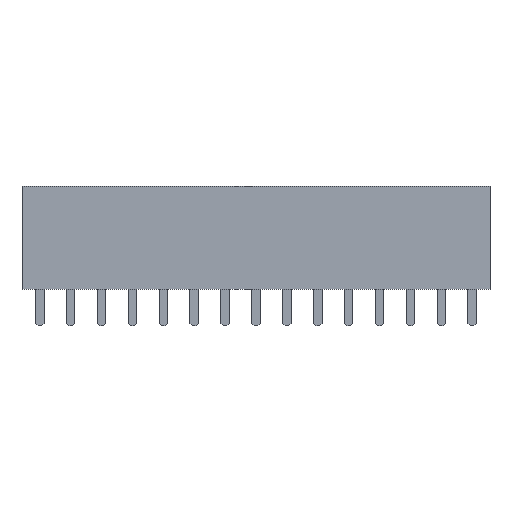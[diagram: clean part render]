
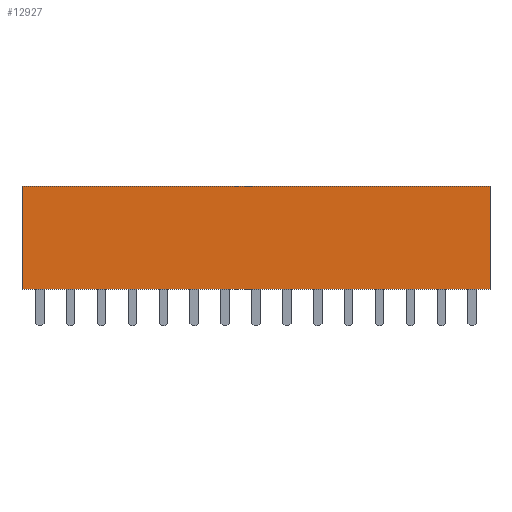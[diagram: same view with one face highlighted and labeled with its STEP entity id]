
A CAD part, top view. The second image highlights one B-rep face of the part: STEP entity #12927.
In plain terms, the highlighted planar face has unit normal (0, 0, 1).
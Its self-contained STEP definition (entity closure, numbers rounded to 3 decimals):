
#823 = CARTESIAN_POINT ( 'NONE',  ( 37.03, 8.5, 1.2 ) ) ;
#1477 = EDGE_LOOP ( 'NONE', ( #4057, #9301, #20752, #11704 ) ) ;
#1533 = LINE ( 'NONE', #10501, #28380 ) ;
#2599 = LINE ( 'NONE', #13666, #16283 ) ;
#3056 = LINE ( 'NONE', #20991, #6112 ) ;
#3687 = CARTESIAN_POINT ( 'NONE',  ( 37.03, 0., 1.2 ) ) ;
#4057 = ORIENTED_EDGE ( 'NONE', *, *, #23113, .T. ) ;
#4444 = DIRECTION ( 'NONE',  ( -1., 0., 0. ) ) ;
#4554 = VERTEX_POINT ( 'NONE', #3687 ) ;
#6112 = VECTOR ( 'NONE', #18839, 1000. ) ;
#6604 = CARTESIAN_POINT ( 'NONE',  ( -1.47, 8.5, 1.2 ) ) ;
#7021 = EDGE_CURVE ( 'NONE', #9450, #15450, #2599, .T. ) ;
#8320 = DIRECTION ( 'NONE',  ( 1., 0., 0. ) ) ;
#9301 = ORIENTED_EDGE ( 'NONE', *, *, #16504, .F. ) ;
#9450 = VERTEX_POINT ( 'NONE', #22644 ) ;
#9619 = DIRECTION ( 'NONE',  ( 0., -1., 0. ) ) ;
#10501 = CARTESIAN_POINT ( 'NONE',  ( -1.47, 8.5, 1.2 ) ) ;
#11501 = CARTESIAN_POINT ( 'NONE',  ( -1.47, 0., 1.2 ) ) ;
#11704 = ORIENTED_EDGE ( 'NONE', *, *, #7021, .T. ) ;
#11761 = LINE ( 'NONE', #823, #19203 ) ;
#12927 = ADVANCED_FACE ( 'NONE', ( #18073 ), #15771, .F. ) ;
#13666 = CARTESIAN_POINT ( 'NONE',  ( -1.47, 8.5, 1.2 ) ) ;
#13948 = DIRECTION ( 'NONE',  ( 0., -1., 0. ) ) ;
#15347 = DIRECTION ( 'NONE',  ( 0., 0., -1. ) ) ;
#15450 = VERTEX_POINT ( 'NONE', #11501 ) ;
#15771 = PLANE ( 'NONE',  #19903 ) ;
#16283 = VECTOR ( 'NONE', #13948, 1000. ) ;
#16504 = EDGE_CURVE ( 'NONE', #19024, #4554, #11761, .T. ) ;
#18073 = FACE_OUTER_BOUND ( 'NONE', #1477, .T. ) ;
#18839 = DIRECTION ( 'NONE',  ( 1., 0., 0. ) ) ;
#19024 = VERTEX_POINT ( 'NONE', #26412 ) ;
#19203 = VECTOR ( 'NONE', #9619, 1000. ) ;
#19489 = EDGE_CURVE ( 'NONE', #9450, #19024, #1533, .T. ) ;
#19903 = AXIS2_PLACEMENT_3D ( 'NONE', #6604, #15347, #4444 ) ;
#20752 = ORIENTED_EDGE ( 'NONE', *, *, #19489, .F. ) ;
#20991 = CARTESIAN_POINT ( 'NONE',  ( -1.47, 0., 1.2 ) ) ;
#22644 = CARTESIAN_POINT ( 'NONE',  ( -1.47, 8.5, 1.2 ) ) ;
#23113 = EDGE_CURVE ( 'NONE', #15450, #4554, #3056, .T. ) ;
#26412 = CARTESIAN_POINT ( 'NONE',  ( 37.03, 8.5, 1.2 ) ) ;
#28380 = VECTOR ( 'NONE', #8320, 1000. ) ;
